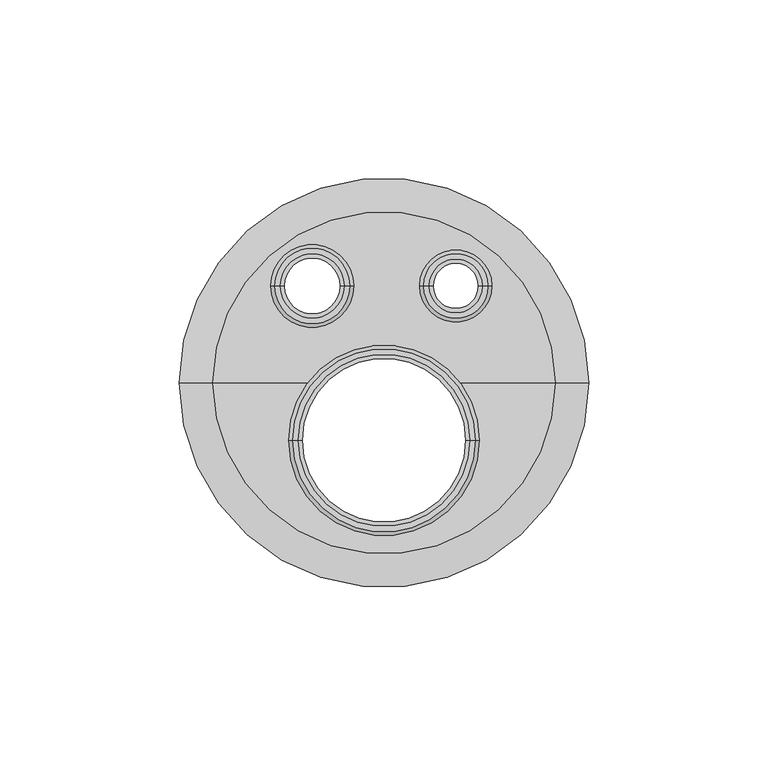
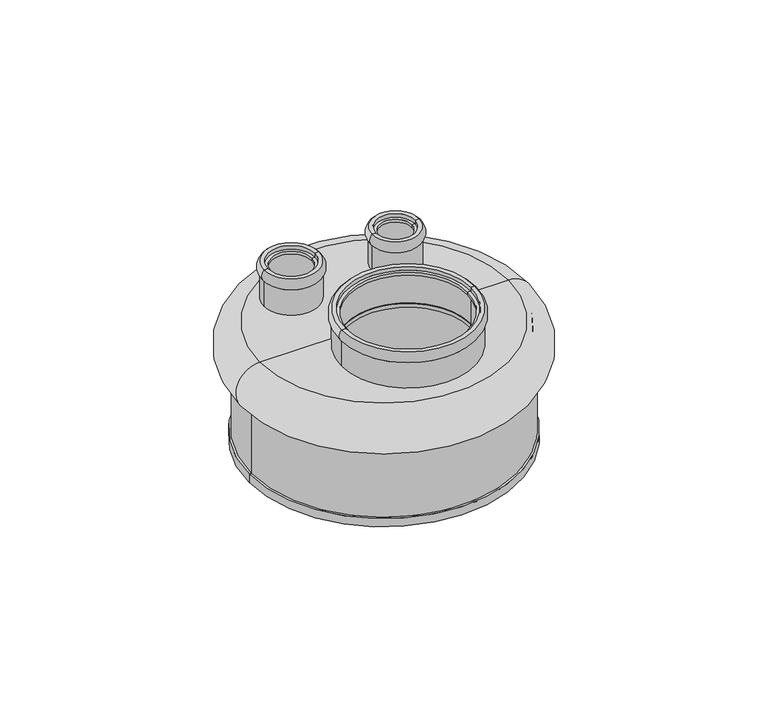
"""IFC4 building model written with IfcOpenShell, lengths in millimetres: valve geometry, Astra - Vedante Flexível Triplo - CFT : Astra - Vedante Flexível Triplo - CFT."""

import ifcopenshell
import ifcopenshell.guid

model = None  # the IFC model being written
_history = None  # IfcOwnerHistory: only IFC2X3 demands one
_inside = {}  # id of a spatial element -> (the spatial element, [elements in it])
_under = {}  # id of a project, library or spatial element -> (it, [spatial elements below it])
_declared = {}  # id of a project -> (the project, [libraries it declares])
_typed = {}  # id of a type object -> (the type object, [elements of that type])
_made_of = {}  # id of a material, layer set ... -> (it, [elements and type objects made of it])


def new_model(schema):
    """Start an empty IFC model of exactly this schema.

    Asked for "IFC4X3", IfcOpenShell would pick the latest addendum, in which some entities
    have other attributes; the version numbers below select the first issue.
    IFC2X3 requires an IfcOwnerHistory on every rooted entity: one is made here for all.
    """
    global model, _history
    if schema == "IFC4X3":
        model = ifcopenshell.file(schema_version=(4, 3, 0, 0))
    else:
        model = ifcopenshell.file(schema=schema)
    _inside.clear()
    _under.clear()
    _declared.clear()
    _typed.clear()
    _made_of.clear()
    _history = None
    if model.schema == "IFC2X3":
        org = make("IfcOrganization", Name="unknown")
        user = make(
            "IfcPersonAndOrganization",
            ThePerson=make("IfcPerson", FamilyName="unknown"),
            TheOrganization=org,
        )
        app = make(
            "IfcApplication",
            ApplicationDeveloper=org,
            Version="unknown",
            ApplicationFullName="unknown",
            ApplicationIdentifier="unknown",
        )
        _history = make(
            "IfcOwnerHistory",
            OwningUser=user,
            OwningApplication=app,
            ChangeAction="ADDED",
            CreationDate=0,
        )
    return model


def make(cls, **values):
    """One entity of the class cls with the attributes given. An attribute that is None is left unset."""
    return model.create_entity(
        cls, **{name: value for name, value in values.items() if value is not None}
    )


def rooted(cls, **values):
    """An entity with a GlobalId (a new one), such as an element, a storey or a relation."""
    return make(cls, GlobalId=ifcopenshell.guid.new(), OwnerHistory=_history, **values)


def si_unit(unit_type, name, prefix=None):
    """IfcSIUnit, for example si_unit("LENGTHUNIT", "METRE", prefix="MILLI")."""
    return make("IfcSIUnit", UnitType=unit_type, Prefix=prefix, Name=name)


def assignment(units):
    """IfcUnitAssignment: the units of a project."""
    return None if units is None else make("IfcUnitAssignment", Units=units)


def point(xyz):
    """IfcCartesianPoint."""
    return None if xyz is None else make("IfcCartesianPoint", Coordinates=xyz)


def direction(xyz):
    """IfcDirection."""
    return None if xyz is None else make("IfcDirection", DirectionRatios=xyz)


def frame(location, z_axis=None, x_axis=None):
    """IfcAxis2Placement3D, a coordinate frame: its origin and axes. An axis left out is left unset."""
    return make(
        "IfcAxis2Placement3D",
        Location=point(location),
        Axis=direction(z_axis),
        RefDirection=direction(x_axis),
    )


def origin():
    """The frame at (0, 0, 0) with its axes left unset."""
    return frame((0.0, 0.0, 0.0))


def origin_with_axes():
    """The frame at (0, 0, 0) with the z axis (0, 0, 1) and the x axis (1, 0, 0) written out."""
    return frame((0.0, 0.0, 0.0), z_axis=(0.0, 0.0, 1.0), x_axis=(1.0, 0.0, 0.0))


def place(relative_to, where):
    """IfcLocalPlacement: puts the frame where relative to a parent placement (None: the world)."""
    return make(
        "IfcLocalPlacement", PlacementRelTo=relative_to, RelativePlacement=where
    )


def context(
    kind, dimensions, precision=None, world=None, true_north=None, identifier=None
):
    """IfcGeometricRepresentationContext, for example the 3D "Model" context."""
    return make(
        "IfcGeometricRepresentationContext",
        ContextIdentifier=identifier,
        ContextType=kind,
        CoordinateSpaceDimension=dimensions,
        Precision=precision,
        WorldCoordinateSystem=world,
        TrueNorth=true_north,
    )


def project(units=None, contexts=None):
    """IfcProject with its units and contexts."""
    return rooted(
        "IfcProject",
        Name="project",
        RepresentationContexts=contexts,
        UnitsInContext=assignment(units),
    )


def spatial(cls, under=None, at=None, **own):
    """A site, building, storey or space (cls), placed at a placement, below another one or the project."""
    s = rooted(cls, ObjectPlacement=at, **own)
    if under is not None:
        _under.setdefault(under.id(), (under, []))[1].append(s)
    return s


def polyline(points):
    """IfcPolyline through the points."""
    return make("IfcPolyline", Points=[point(p) for p in points])


def circle_curve(where, radius):
    """IfcCircle in the frame where."""
    return make("IfcCircle", Position=where, Radius=radius)


def ellipse_curve(where, semi_axis1, semi_axis2):
    """IfcEllipse in the frame where."""
    return make(
        "IfcEllipse", Position=where, SemiAxis1=semi_axis1, SemiAxis2=semi_axis2
    )


def trimmed(basis, trim1, trim2, sense, master):
    """IfcTrimmedCurve: the piece of a basis curve between two trims."""
    return make(
        "IfcTrimmedCurve",
        BasisCurve=basis,
        Trim1=trim1,
        Trim2=trim2,
        SenseAgreement=sense,
        MasterRepresentation=master,
    )


def shape(context_of_items, identifier, shape_type, items):
    """IfcShapeRepresentation: the items that make up one representation, for example the "Body"."""
    return make(
        "IfcShapeRepresentation",
        ContextOfItems=context_of_items,
        RepresentationIdentifier=identifier,
        RepresentationType=shape_type,
        Items=items,
    )


def source(mapping_origin, context_of_items, identifier, shape_type, items):
    """IfcRepresentationMap: a shape defined once, which mapped items show again and again."""
    return make(
        "IfcRepresentationMap",
        MappingOrigin=mapping_origin,
        MappedRepresentation=shape(context_of_items, identifier, shape_type, items),
    )


def transform(
    local_origin,
    x_axis=None,
    y_axis=None,
    z_axis=None,
    scale=None,
    scale2=None,
    scale3=None,
    uniform=True,
):
    """IfcCartesianTransformationOperator3D, or its non-uniform kind. x_axis, y_axis, z_axis: its Axis1, 2, 3."""
    if uniform:
        return make(
            "IfcCartesianTransformationOperator3D",
            Axis1=direction(x_axis),
            Axis2=direction(y_axis),
            LocalOrigin=point(local_origin),
            Scale=scale,
            Axis3=direction(z_axis),
        )
    return make(
        "IfcCartesianTransformationOperator3DnonUniform",
        Axis1=direction(x_axis),
        Axis2=direction(y_axis),
        LocalOrigin=point(local_origin),
        Scale=scale,
        Axis3=direction(z_axis),
        Scale2=scale2,
        Scale3=scale3,
    )


def mapped(mapping_source, mapping_target):
    """IfcMappedItem: shows the shape of a source again, moved by a transform."""
    return make(
        "IfcMappedItem", MappingSource=mapping_source, MappingTarget=mapping_target
    )


def made_of(thing, what):
    """Note that an element or type object is made of a material, layer set ...; save() writes the relation."""
    if what is not None:
        _made_of.setdefault(what.id(), (what, []))[1].append(thing)
    return thing


def element(
    cls,
    number,
    at=None,
    inside=None,
    cuts=None,
    type_object=None,
    material=None,
    context=None,
    identifier="Body",
    shape_type=None,
    held_by="IfcProductDefinitionShape",
    body=None,
    shapes=None,
    **own,
):
    """One element of the class cls, such as IfcWall. Its Tag is "e" and its number.

    at: its placement. inside: the storey or other place that contains it. cuts: it is an
    opening in that element (IfcRelVoidsElement). A single representation is given by context,
    identifier, shape_type and body (its items); several are given by shapes. held_by: the class
    of the entity that holds the representations. save() writes the other relations.
    """
    e = rooted(cls, Tag="e%d" % number, ObjectPlacement=at, **own)
    if body is not None:
        shapes = [shape(context, identifier, shape_type, body)]
    if shapes is not None:
        e.Representation = make(held_by, Representations=shapes)
    if inside is not None:
        _inside.setdefault(inside.id(), (inside, []))[1].append(e)
    if cuts is not None:
        rooted(
            "IfcRelVoidsElement", RelatingBuildingElement=cuts, RelatedOpeningElement=e
        )
    if type_object is not None:
        _typed.setdefault(type_object.id(), (type_object, []))[1].append(e)
    return made_of(e, material)


def aggregate(whole, parts):
    """IfcRelAggregates: a whole, such as a stair, and the parts it consists of."""
    return rooted("IfcRelAggregates", RelatingObject=whole, RelatedObjects=parts)


def save(model, path):
    """Write the relations noted so far, then the file.

    IfcRelAggregates (storeys below a building ...), IfcRelContainedInSpatialStructure (elements
    in a storey), IfcRelDefinesByType, IfcRelAssociatesMaterial and IfcRelDeclares: one each for
    every whole, place, type object, material and project.
    """
    for whole, parts in _under.values():
        aggregate(whole, parts)
    for where, things in _inside.values():
        rooted(
            "IfcRelContainedInSpatialStructure",
            RelatedElements=things,
            RelatingStructure=where,
        )
    for kind, things in _typed.values():
        rooted("IfcRelDefinesByType", RelatedObjects=things, RelatingType=kind)
    for what, things in _made_of.values():
        rooted("IfcRelAssociatesMaterial", RelatedObjects=things, RelatingMaterial=what)
    for by, libraries in _declared.values():
        rooted("IfcRelDeclares", RelatingContext=by, RelatedDefinitions=libraries)
    model.write(path)


def plane_surface(at):
    """IfcPlane: the flat surface through the origin of the frame at, square to its z axis."""
    return make("IfcPlane", Position=at)


def cylinder_surface(at, radius):
    """IfcCylindricalSurface: all points at the distance radius from the z axis of the frame at."""
    return make("IfcCylindricalSurface", Position=at, Radius=radius)


def revolved_surface(curve, axis_point, axis_direction):
    """IfcSurfaceOfRevolution: the curve turned about the line through axis_point along axis_direction."""
    return make(
        "IfcSurfaceOfRevolution",
        SweptCurve=make("IfcArbitraryOpenProfileDef", ProfileType="CURVE", Curve=curve),
        AxisPosition=make("IfcAxis1Placement", Location=point(axis_point), Axis=direction(axis_direction)),
    )


def advanced_brep(points, edges, surfaces, faces):
    """IfcAdvancedBrep: a solid bounded by faces that lie on surfaces and meet in shared edges.

    An edge is (start, end): straight between two places in points (the first is 0);
    or (start, end, curve); or (start, end, curve, False) where it runs against its curve.
    A face is (place in surfaces, loops), or (place, loops, False) where it looks against
    its surface's normal. A loop lists edges by number (the first is 1), with a minus sign
    where the edge is run from its end to its start. The first loop is the outer one.
    """
    corners = [point(p) for p in points]
    vertices = [make("IfcVertexPoint", VertexGeometry=c) for c in corners]
    made = []
    for start, end, *more in edges:
        made.append(
            make(
                "IfcEdgeCurve",
                EdgeStart=vertices[start],
                EdgeEnd=vertices[end],
                EdgeGeometry=more[0] if more else make("IfcPolyline", Points=[corners[start], corners[end]]),
                SameSense=more[1] if len(more) > 1 else True,
            )
        )
    hull = []
    for where, loops, *sense in faces:
        bounds = []
        for j, loop in enumerate(loops):
            ring = [make("IfcOrientedEdge", EdgeElement=made[abs(k) - 1], Orientation=k > 0) for k in loop]
            bounds.append(
                make(
                    "IfcFaceOuterBound" if j == 0 else "IfcFaceBound",
                    Bound=make("IfcEdgeLoop", EdgeList=ring),
                    Orientation=True,
                )
            )
        hull.append(make("IfcAdvancedFace", Bounds=bounds, FaceSurface=surfaces[where], SameSense=sense[0] if sense else True))
    return make("IfcAdvancedBrep", Outer=make("IfcClosedShell", CfsFaces=hull))


def valve_129e3b03(model_context):
    return source(origin(), model_context, "Body", "AdvancedBrep", [
        advanced_brep(
        [(47.648, 0.0, 0.0), (-47.648, 0.0, 0.0), (-17.8885438, 0.0, 0.0), (17.8885438, 0.0, 0.0), (27.5, 27.0, 0.0), (12.5, 27.0, 0.0), (-11.0, 27.0, 0.0), (-29.0, 27.0, 0.0), (24.0, -16.0, 0.0), (-24.0, -16.0, 0.0), (-49.5006317, 0.0, -47.402), (49.5, 0.0, -47.402), (49.5, 0.0, -1.5), (-49.5006317, 0.0, -1.5), (-51.8006317, 0.0, -47.402), (51.8, 0.0, -47.402), (-51.8006317, 0.0, -44.102), (51.8, 0.0, -44.102), (-51.0006317, 0.0, -44.102), (51.0, 0.0, -44.102), (-51.0006317, 0.0, -17.47), (51.0, 0.0, -17.47), (17.8885438, 0.0, -1.5), (-17.8885438, 0.0, -1.5), (-29.0, 27.0, -1.5), (-11.0, 27.0, -1.5), (12.5, 27.0, -1.5), (27.5, 27.0, -1.5), (-24.0, -16.0, -1.5), (24.0, -16.0, -1.5), (-52.3023313, 0.0, -17.47), (52.3023313, 0.0, -17.47)],
        [
            (0, 1, circle_curve(origin_with_axes(), 47.648)),
            (1, 2),
            (2, 3, circle_curve(frame((0.0, -16.0, 0.0), z_axis=(0.0, 0.0, -1.0), x_axis=(1.0, 0.0, 0.0)), 24.0)),
            (3, 0),
            (4, 5, circle_curve(frame((20.0, 27.0, 0.0), z_axis=(0.0, 0.0, -1.0), x_axis=(1.0, 0.0, 0.0)), 7.5)),
            (5, 4, circle_curve(frame((20.0, 27.0, 0.0), z_axis=(0.0, 0.0, -1.0), x_axis=(1.0, 0.0, 0.0)), 7.5)),
            (6, 7, circle_curve(frame((-20.0, 27.0, 0.0), z_axis=(0.0, 0.0, -1.0), x_axis=(1.0, 0.0, 0.0)), 9.0)),
            (7, 6, circle_curve(frame((-20.0, 27.0, 0.0), z_axis=(0.0, 0.0, -1.0), x_axis=(1.0, 0.0, 0.0)), 9.0)),
            (1, 0, circle_curve(origin_with_axes(), 47.648)),
            (3, 8, circle_curve(frame((0.0, -16.0, 0.0), z_axis=(0.0, 0.0, -1.0), x_axis=(1.0, 0.0, 0.0)), 24.0)),
            (8, 9, circle_curve(frame((0.0, -16.0, 0.0), z_axis=(0.0, 0.0, -1.0), x_axis=(1.0, 0.0, 0.0)), 24.0)),
            (9, 2, circle_curve(frame((0.0, -16.0, 0.0), z_axis=(0.0, 0.0, -1.0), x_axis=(1.0, 0.0, 0.0)), 24.0)),
            (10, 11, circle_curve(frame((-0.0003158, 0.0, -47.402), z_axis=(0.0, 0.0, -1.0), x_axis=(1.0, 0.0, 0.0)), 49.5003158)),
            (11, 12),
            (12, 13, circle_curve(frame((-0.0003158, 0.0, -1.5), z_axis=(0.0, 0.0, 1.0), x_axis=(1.0, 0.0, 0.0)), 49.5003158)),
            (13, 10),
            (11, 10, circle_curve(frame((-0.0003158, 0.0, -47.402), z_axis=(0.0, 0.0, -1.0), x_axis=(1.0, 0.0, 0.0)), 49.5003158)),
            (13, 12, circle_curve(frame((-0.0003158, 0.0, -1.5), z_axis=(0.0, 0.0, 1.0), x_axis=(1.0, 0.0, 0.0)), 49.5003158)),
            (10, 14),
            (14, 15, circle_curve(frame((-0.0003158, 0.0, -47.402), z_axis=(0.0, 0.0, -1.0), x_axis=(1.0, 0.0, 0.0)), 51.8003158)),
            (15, 11),
            (15, 14, circle_curve(frame((-0.0003158, 0.0, -47.402), z_axis=(0.0, 0.0, -1.0), x_axis=(1.0, 0.0, 0.0)), 51.8003158)),
            (14, 16),
            (16, 17, circle_curve(frame((-0.0003158, 0.0, -44.102), z_axis=(0.0, 0.0, -1.0), x_axis=(1.0, 0.0, 0.0)), 51.8003158)),
            (17, 15),
            (17, 16, circle_curve(frame((-0.0003158, 0.0, -44.102), z_axis=(0.0, 0.0, -1.0), x_axis=(1.0, 0.0, 0.0)), 51.8003158)),
            (16, 18),
            (18, 19, circle_curve(frame((-0.0003158, 0.0, -44.102), z_axis=(0.0, 0.0, -1.0), x_axis=(1.0, 0.0, 0.0)), 51.0003158)),
            (19, 17),
            (19, 18, circle_curve(frame((-0.0003158, 0.0, -44.102), z_axis=(0.0, 0.0, -1.0), x_axis=(1.0, 0.0, 0.0)), 51.0003158)),
            (18, 20),
            (20, 21, circle_curve(frame((-0.0003158, 0.0, -17.47), z_axis=(0.0, 0.0, -1.0), x_axis=(1.0, 0.0, 0.0)), 51.0003158)),
            (21, 19),
            (21, 20, circle_curve(frame((-0.0003158, 0.0, -17.47), z_axis=(0.0, 0.0, -1.0), x_axis=(1.0, 0.0, 0.0)), 51.0003158)),
            (12, 22),
            (22, 23, circle_curve(frame((0.0, -16.0, -1.5), z_axis=(0.0, 0.0, 1.0), x_axis=(1.0, 0.0, 0.0)), 24.0)),
            (23, 13),
            (24, 25, circle_curve(frame((-20.0, 27.0, -1.5), z_axis=(0.0, 0.0, 1.0), x_axis=(1.0, 0.0, 0.0)), 9.0)),
            (25, 24, circle_curve(frame((-20.0, 27.0, -1.5), z_axis=(0.0, 0.0, 1.0), x_axis=(1.0, 0.0, 0.0)), 9.0)),
            (26, 27, circle_curve(frame((20.0, 27.0, -1.5), z_axis=(0.0, 0.0, 1.0), x_axis=(1.0, 0.0, 0.0)), 7.5)),
            (27, 26, circle_curve(frame((20.0, 27.0, -1.5), z_axis=(0.0, 0.0, 1.0), x_axis=(1.0, 0.0, 0.0)), 7.5)),
            (23, 28, circle_curve(frame((0.0, -16.0, -1.5), z_axis=(0.0, 0.0, 1.0), x_axis=(1.0, 0.0, 0.0)), 24.0)),
            (28, 29, circle_curve(frame((0.0, -16.0, -1.5), z_axis=(0.0, 0.0, 1.0), x_axis=(1.0, 0.0, 0.0)), 24.0)),
            (29, 22, circle_curve(frame((0.0, -16.0, -1.5), z_axis=(0.0, 0.0, 1.0), x_axis=(1.0, 0.0, 0.0)), 24.0)),
            (20, 30),
            (30, 31, circle_curve(frame((0.0, 0.0, -17.47), z_axis=(0.0, 0.0, -1.0), x_axis=(1.0, 0.0, 0.0)), 52.3023313)),
            (31, 21),
            (31, 30, circle_curve(frame((0.0, 0.0, -17.47), z_axis=(0.0, 0.0, -1.0), x_axis=(1.0, 0.0, 0.0)), 52.3023313)),
            (30, 1, circle_curve(frame((-47.648, 0.0, -9.355), z_axis=(0.0, 1.0, 0.0), x_axis=(-1.0, 0.0, 0.0)), 9.355)),
            (0, 31, circle_curve(frame((47.648, 0.0, -9.355), z_axis=(0.0, 1.0, 0.0), x_axis=(1.0, 0.0, 0.0)), 9.355)),
            (24, 7),
            (6, 25),
            (26, 5),
            (4, 27),
            (28, 9),
            (8, 29),
        ],
        [
            plane_surface(frame((-0.0003158, 0.0, 0.0), z_axis=(0.0, 0.0, 1.0), x_axis=(1.0, 0.0, 0.0))),
            revolved_surface(polyline([(49.5, 0.0, -1.5), (49.5, 0.0, -47.402)]), (-0.0003158, 0.0, 0.0), (0.0, 0.0, 1.0)),
            plane_surface(frame((-0.0003158, 0.0, -47.402), z_axis=(0.0, 0.0, -1.0), x_axis=(1.0, 0.0, 0.0))),
            cylinder_surface(frame((-0.0003158, 0.0, 0.0), z_axis=(0.0, 0.0, 1.0), x_axis=(1.0, 0.0, 0.0)), 51.8003158),
            plane_surface(frame((-0.0003158, 0.0, -44.102), z_axis=(0.0, 0.0, 1.0), x_axis=(1.0, 0.0, 0.0))),
            cylinder_surface(frame((-0.0003158, 0.0, 0.0), z_axis=(0.0, 0.0, 1.0), x_axis=(1.0, 0.0, 0.0)), 51.0003158),
            plane_surface(frame((-0.0003158, 0.0, -1.5), z_axis=(0.0, 0.0, -1.0), x_axis=(1.0, 0.0, 0.0))),
            plane_surface(frame((-0.0003158, 0.0, -17.47), z_axis=(0.0, 0.0, -1.0), x_axis=(1.0, 0.0, 0.0))),
            revolved_surface(trimmed(ellipse_curve(frame((47.648, 0.0, -9.355), z_axis=(0.0, -1.0, 0.0), x_axis=(1.0, 0.0, 0.0)), 9.355, 9.355), [point((52.3023313, 0.0, -17.47))], [point((47.648, 0.0, 0.0))], True, "CARTESIAN"), (0.0, 0.0, 0.0), (0.0, 0.0, 1.0)),
            revolved_surface(polyline([(-11.0, 27.0, 0.0), (-11.0, 27.0, -1.5)]), (-20.0, 27.0, -1.7), (0.0, 0.0, 1.0)),
            revolved_surface(polyline([(27.5, 27.0, 0.0), (27.5, 27.0, -1.5)]), (20.0, 27.0, 0.0), (0.0, 0.0, 1.0)),
            revolved_surface(polyline([(24.0, -16.0, 0.0), (24.0, -16.0, -1.5)]), (0.0, -16.0, 0.0), (0.0, 0.0, 1.0)),
        ],
        [
            (0, [[1, 2, 3, 4], [5, 6], [7, 8]]),
            (0, [[9, -4, 10, 11, 12, -2]]),
            (1, [[13, 14, 15, 16]]),
            (1, [[-14, 17, -16, 18]]),
            (2, [[-13, 19, 20, 21]]),
            (2, [[-17, -21, 22, -19]]),
            (3, [[-20, 23, 24, 25]]),
            (3, [[-22, -25, 26, -23]]),
            (4, [[-24, 27, 28, 29]]),
            (4, [[-26, -29, 30, -27]]),
            (5, [[-28, 31, 32, 33]]),
            (5, [[-30, -33, 34, -31]]),
            (6, [[-15, 35, 36, 37], [38, 39], [40, 41]]),
            (6, [[-18, -37, 42, 43, 44, -35]]),
            (7, [[-32, 45, 46, 47]]),
            (7, [[-34, -47, 48, -45]]),
            (8, [[49, -1, 50, -46]]),
            (8, [[-49, -48, -50, -9]]),
            (9, [[51, -7, 52, -38]]),
            (9, [[-51, -39, -52, -8]]),
            (10, [[53, -5, 54, -40]]),
            (10, [[-53, -41, -54, -6]]),
            (11, [[55, -11, 56, -43]]),
            (11, [[-55, -42, -36, -44, -56, -10, -3, -12]]),
        ],
    ),
        advanced_brep(
        [(-25.565, -16.0, 10.5771317), (25.565, -16.0, 10.5771317), (25.565, -16.0, 0.0), (-25.565, -16.0, 0.0), (-25.565, -16.0, 15.0), (25.565, -16.0, 15.0), (-24.0, -16.0, 15.0), (24.0, -16.0, 15.0), (-24.0, -16.0, 13.5), (24.0, -16.0, 13.5), (-22.8, -16.0, 13.5), (22.8, -16.0, 13.5), (-22.8, -16.0, 12.35), (22.8, -16.0, 12.35), (-24.0, -16.0, 12.35), (24.0, -16.0, 12.35), (-24.0, -16.0, 0.0), (24.0, -16.0, 0.0)],
        [
            (0, 1, circle_curve(frame((0.0, -16.0, 10.5771317), z_axis=(0.0, 0.0, -1.0), x_axis=(1.0, 0.0, 0.0)), 25.565)),
            (1, 2),
            (2, 3, circle_curve(frame((0.0, -16.0, 0.0), z_axis=(0.0, 0.0, 1.0), x_axis=(1.0, 0.0, 0.0)), 25.565)),
            (3, 0),
            (1, 0, circle_curve(frame((0.0, -16.0, 10.5771317), z_axis=(0.0, 0.0, -1.0), x_axis=(1.0, 0.0, 0.0)), 25.565)),
            (3, 2, circle_curve(frame((0.0, -16.0, 0.0), z_axis=(0.0, 0.0, 1.0), x_axis=(1.0, 0.0, 0.0)), 25.565)),
            (4, 5, circle_curve(frame((0.0, -16.0, 15.0), z_axis=(0.0, 0.0, -1.0), x_axis=(1.0, 0.0, 0.0)), 25.565)),
            (5, 1, circle_curve(frame((23.620326, -16.0, 12.7885658), z_axis=(0.0, 1.0, 0.0), x_axis=(1.0, 0.0, 0.0)), 2.9448596)),
            (0, 4, circle_curve(frame((-23.620326, -16.0, 12.7885658), z_axis=(0.0, 1.0, 0.0), x_axis=(-1.0, 0.0, 0.0)), 2.9448596)),
            (5, 4, circle_curve(frame((0.0, -16.0, 15.0), z_axis=(0.0, 0.0, -1.0), x_axis=(1.0, 0.0, 0.0)), 25.565)),
            (6, 7, circle_curve(frame((0.0, -16.0, 15.0), z_axis=(0.0, 0.0, -1.0), x_axis=(1.0, 0.0, 0.0)), 24.0)),
            (7, 5),
            (4, 6),
            (7, 6, circle_curve(frame((0.0, -16.0, 15.0), z_axis=(0.0, 0.0, -1.0), x_axis=(1.0, 0.0, 0.0)), 24.0)),
            (8, 9, circle_curve(frame((0.0, -16.0, 13.5), z_axis=(0.0, 0.0, -1.0), x_axis=(1.0, 0.0, 0.0)), 24.0)),
            (9, 7),
            (6, 8),
            (9, 8, circle_curve(frame((0.0, -16.0, 13.5), z_axis=(0.0, 0.0, -1.0), x_axis=(1.0, 0.0, 0.0)), 24.0)),
            (10, 11, circle_curve(frame((0.0, -16.0, 13.5), z_axis=(0.0, 0.0, -1.0), x_axis=(1.0, 0.0, 0.0)), 22.8)),
            (11, 9),
            (8, 10),
            (11, 10, circle_curve(frame((0.0, -16.0, 13.5), z_axis=(0.0, 0.0, -1.0), x_axis=(1.0, 0.0, 0.0)), 22.8)),
            (12, 13, circle_curve(frame((0.0, -16.0, 12.35), z_axis=(0.0, 0.0, -1.0), x_axis=(1.0, 0.0, 0.0)), 22.8)),
            (13, 11),
            (10, 12),
            (13, 12, circle_curve(frame((0.0, -16.0, 12.35), z_axis=(0.0, 0.0, -1.0), x_axis=(1.0, 0.0, 0.0)), 22.8)),
            (14, 15, circle_curve(frame((0.0, -16.0, 12.35), z_axis=(0.0, 0.0, -1.0), x_axis=(1.0, 0.0, 0.0)), 24.0)),
            (15, 13),
            (12, 14),
            (15, 14, circle_curve(frame((0.0, -16.0, 12.35), z_axis=(0.0, 0.0, -1.0), x_axis=(1.0, 0.0, 0.0)), 24.0)),
            (16, 17, circle_curve(frame((0.0, -16.0, 0.0), z_axis=(0.0, 0.0, -1.0), x_axis=(1.0, 0.0, 0.0)), 24.0)),
            (17, 15),
            (14, 16),
            (17, 16, circle_curve(frame((0.0, -16.0, 0.0), z_axis=(0.0, 0.0, -1.0), x_axis=(1.0, 0.0, 0.0)), 24.0)),
            (2, 17),
            (16, 3),
        ],
        [
            cylinder_surface(frame((0.0, -16.0, 15.0), z_axis=(0.0, 0.0, 1.0), x_axis=(1.0, 0.0, 0.0)), 25.565),
            revolved_surface(trimmed(ellipse_curve(frame((23.620326, -16.0, 12.7885658), z_axis=(0.0, -1.0, 0.0), x_axis=(1.0, 0.0, 0.0)), 2.9448596, 2.9448596), [point((25.565, -16.0, 10.5771317))], [point((25.565, -16.0, 15.0))], True, "CARTESIAN"), (0.0, -16.0, 15.0), (0.0, 0.0, 1.0)),
            plane_surface(frame((0.0, -16.0, 15.0), z_axis=(0.0, 0.0, 1.0), x_axis=(1.0, 0.0, 0.0))),
            revolved_surface(polyline([(24.0, -16.0, 15.0), (24.0, -16.0, 13.5)]), (0.0, -16.0, 15.0), (0.0, 0.0, 1.0)),
            plane_surface(frame((0.0, -16.0, 13.5), z_axis=(0.0, 0.0, 1.0), x_axis=(1.0, 0.0, 0.0))),
            revolved_surface(polyline([(22.8, -16.0, 13.5), (22.8, -16.0, 12.35)]), (0.0, -16.0, 15.0), (0.0, 0.0, 1.0)),
            plane_surface(frame((0.0, -16.0, 12.35), z_axis=(0.0, 0.0, -1.0), x_axis=(1.0, 0.0, 0.0))),
            revolved_surface(polyline([(24.0, -16.0, 12.35), (24.0, -16.0, 0.0)]), (0.0, -16.0, 15.0), (0.0, 0.0, 1.0)),
            plane_surface(frame((0.0, -16.0, 0.0), z_axis=(0.0, 0.0, -1.0), x_axis=(1.0, 0.0, 0.0))),
        ],
        [
            (0, [[1, 2, 3, 4]]),
            (0, [[5, -4, 6, -2]]),
            (1, [[7, 8, -1, 9]]),
            (1, [[10, -9, -5, -8]]),
            (2, [[11, 12, -7, 13]]),
            (2, [[14, -13, -10, -12]]),
            (3, [[15, 16, -11, 17]]),
            (3, [[18, -17, -14, -16]]),
            (4, [[19, 20, -15, 21]]),
            (4, [[22, -21, -18, -20]]),
            (5, [[23, 24, -19, 25]]),
            (5, [[26, -25, -22, -24]]),
            (6, [[27, 28, -23, 29]]),
            (6, [[30, -29, -26, -28]]),
            (7, [[31, 32, -27, 33]]),
            (7, [[34, -33, -30, -32]]),
            (8, [[-3, 35, -31, 36]]),
            (8, [[-6, -36, -34, -35]]),
        ],
    ),
        advanced_brep(
        [(10.935, 27.0, 10.5771317), (29.065, 27.0, 10.5771317), (29.065, 27.0, 0.0), (10.935, 27.0, 0.0), (10.935, 27.0, 15.0), (29.065, 27.0, 15.0), (12.5, 27.0, 15.0), (27.5, 27.0, 15.0), (12.5, 27.0, 13.5), (27.5, 27.0, 13.5), (13.7, 27.0, 13.5), (26.3, 27.0, 13.5), (13.7, 27.0, 12.35), (26.3, 27.0, 12.35), (12.5, 27.0, 12.35), (27.5, 27.0, 12.35), (12.5, 27.0, 0.0), (27.5, 27.0, 0.0)],
        [
            (0, 1, circle_curve(frame((20.0, 27.0, 10.5771317), z_axis=(0.0, 0.0, -1.0), x_axis=(1.0, 0.0, 0.0)), 9.065)),
            (1, 2),
            (2, 3, circle_curve(frame((20.0, 27.0, 0.0), z_axis=(0.0, 0.0, 1.0), x_axis=(1.0, 0.0, 0.0)), 9.065)),
            (3, 0),
            (1, 0, circle_curve(frame((20.0, 27.0, 10.5771317), z_axis=(0.0, 0.0, -1.0), x_axis=(1.0, 0.0, 0.0)), 9.065)),
            (3, 2, circle_curve(frame((20.0, 27.0, 0.0), z_axis=(0.0, 0.0, 1.0), x_axis=(1.0, 0.0, 0.0)), 9.065)),
            (4, 5, circle_curve(frame((20.0, 27.0, 15.0), z_axis=(0.0, 0.0, -1.0), x_axis=(1.0, 0.0, 0.0)), 9.065)),
            (5, 1, circle_curve(frame((27.120326, 27.0, 12.7885658), z_axis=(0.0, 1.0, 0.0), x_axis=(1.0, 0.0, 0.0)), 2.9448596)),
            (0, 4, circle_curve(frame((12.879674, 27.0, 12.7885658), z_axis=(0.0, 1.0, 0.0), x_axis=(-1.0, 0.0, 0.0)), 2.9448596)),
            (5, 4, circle_curve(frame((20.0, 27.0, 15.0), z_axis=(0.0, 0.0, -1.0), x_axis=(1.0, 0.0, 0.0)), 9.065)),
            (6, 7, circle_curve(frame((20.0, 27.0, 15.0), z_axis=(0.0, 0.0, -1.0), x_axis=(1.0, 0.0, 0.0)), 7.5)),
            (7, 5),
            (4, 6),
            (7, 6, circle_curve(frame((20.0, 27.0, 15.0), z_axis=(0.0, 0.0, -1.0), x_axis=(1.0, 0.0, 0.0)), 7.5)),
            (8, 9, circle_curve(frame((20.0, 27.0, 13.5), z_axis=(0.0, 0.0, -1.0), x_axis=(1.0, 0.0, 0.0)), 7.5)),
            (9, 7),
            (6, 8),
            (9, 8, circle_curve(frame((20.0, 27.0, 13.5), z_axis=(0.0, 0.0, -1.0), x_axis=(1.0, 0.0, 0.0)), 7.5)),
            (10, 11, circle_curve(frame((20.0, 27.0, 13.5), z_axis=(0.0, 0.0, -1.0), x_axis=(1.0, 0.0, 0.0)), 6.3)),
            (11, 9),
            (8, 10),
            (11, 10, circle_curve(frame((20.0, 27.0, 13.5), z_axis=(0.0, 0.0, -1.0), x_axis=(1.0, 0.0, 0.0)), 6.3)),
            (12, 13, circle_curve(frame((20.0, 27.0, 12.35), z_axis=(0.0, 0.0, -1.0), x_axis=(1.0, 0.0, 0.0)), 6.3)),
            (13, 11),
            (10, 12),
            (13, 12, circle_curve(frame((20.0, 27.0, 12.35), z_axis=(0.0, 0.0, -1.0), x_axis=(1.0, 0.0, 0.0)), 6.3)),
            (14, 15, circle_curve(frame((20.0, 27.0, 12.35), z_axis=(0.0, 0.0, -1.0), x_axis=(1.0, 0.0, 0.0)), 7.5)),
            (15, 13),
            (12, 14),
            (15, 14, circle_curve(frame((20.0, 27.0, 12.35), z_axis=(0.0, 0.0, -1.0), x_axis=(1.0, 0.0, 0.0)), 7.5)),
            (16, 17, circle_curve(frame((20.0, 27.0, 0.0), z_axis=(0.0, 0.0, -1.0), x_axis=(1.0, 0.0, 0.0)), 7.5)),
            (17, 15),
            (14, 16),
            (17, 16, circle_curve(frame((20.0, 27.0, 0.0), z_axis=(0.0, 0.0, -1.0), x_axis=(1.0, 0.0, 0.0)), 7.5)),
            (2, 17),
            (16, 3),
        ],
        [
            cylinder_surface(frame((20.0, 27.0, 15.0), z_axis=(0.0, 0.0, 1.0), x_axis=(1.0, 0.0, 0.0)), 9.065),
            revolved_surface(trimmed(ellipse_curve(frame((27.120326, 27.0, 12.7885658), z_axis=(0.0, -1.0, 0.0), x_axis=(1.0, 0.0, 0.0)), 2.9448596, 2.9448596), [point((29.065, 27.0, 10.5771317))], [point((29.065, 27.0, 15.0))], True, "CARTESIAN"), (20.0, 27.0, 15.0), (0.0, 0.0, 1.0)),
            plane_surface(frame((20.0, 27.0, 15.0), z_axis=(0.0, 0.0, 1.0), x_axis=(1.0, 0.0, 0.0))),
            revolved_surface(polyline([(27.5, 27.0, 15.0), (27.5, 27.0, 13.5)]), (20.0, 27.0, 15.0), (0.0, 0.0, 1.0)),
            plane_surface(frame((20.0, 27.0, 13.5), z_axis=(0.0, 0.0, 1.0), x_axis=(1.0, 0.0, 0.0))),
            revolved_surface(polyline([(26.3, 27.0, 13.5), (26.3, 27.0, 12.35)]), (20.0, 27.0, 15.0), (0.0, 0.0, 1.0)),
            plane_surface(frame((20.0, 27.0, 12.35), z_axis=(0.0, 0.0, -1.0), x_axis=(1.0, 0.0, 0.0))),
            revolved_surface(polyline([(27.5, 27.0, 12.35), (27.5, 27.0, 0.0)]), (20.0, 27.0, 15.0), (0.0, 0.0, 1.0)),
            plane_surface(frame((20.0, 27.0, 0.0), z_axis=(0.0, 0.0, -1.0), x_axis=(1.0, 0.0, 0.0))),
        ],
        [
            (0, [[1, 2, 3, 4]]),
            (0, [[5, -4, 6, -2]]),
            (1, [[7, 8, -1, 9]]),
            (1, [[10, -9, -5, -8]]),
            (2, [[11, 12, -7, 13]]),
            (2, [[14, -13, -10, -12]]),
            (3, [[15, 16, -11, 17]]),
            (3, [[18, -17, -14, -16]]),
            (4, [[19, 20, -15, 21]]),
            (4, [[22, -21, -18, -20]]),
            (5, [[23, 24, -19, 25]]),
            (5, [[26, -25, -22, -24]]),
            (6, [[27, 28, -23, 29]]),
            (6, [[30, -29, -26, -28]]),
            (7, [[31, 32, -27, 33]]),
            (7, [[34, -33, -30, -32]]),
            (8, [[-3, 35, -31, 36]]),
            (8, [[-6, -36, -34, -35]]),
        ],
    ),
        advanced_brep(
        [(-30.565, 27.0, 10.5771317), (-9.435, 27.0, 10.5771317), (-9.435, 27.0, 0.0), (-30.565, 27.0, 0.0), (-30.565, 27.0, 15.0), (-9.435, 27.0, 15.0), (-29.0, 27.0, 15.0), (-11.0, 27.0, 15.0), (-29.0, 27.0, 13.5), (-11.0, 27.0, 13.5), (-27.8, 27.0, 13.5), (-12.2, 27.0, 13.5), (-27.8, 27.0, 12.35), (-12.2, 27.0, 12.35), (-29.0, 27.0, 12.35), (-11.0, 27.0, 12.35), (-29.0, 27.0, 0.0), (-11.0, 27.0, 0.0)],
        [
            (0, 1, circle_curve(frame((-20.0, 27.0, 10.5771317), z_axis=(0.0, 0.0, -1.0), x_axis=(1.0, 0.0, 0.0)), 10.565)),
            (1, 2),
            (2, 3, circle_curve(frame((-20.0, 27.0, 0.0), z_axis=(0.0, 0.0, 1.0), x_axis=(1.0, 0.0, 0.0)), 10.565)),
            (3, 0),
            (1, 0, circle_curve(frame((-20.0, 27.0, 10.5771317), z_axis=(0.0, 0.0, -1.0), x_axis=(1.0, 0.0, 0.0)), 10.565)),
            (3, 2, circle_curve(frame((-20.0, 27.0, 0.0), z_axis=(0.0, 0.0, 1.0), x_axis=(1.0, 0.0, 0.0)), 10.565)),
            (4, 5, circle_curve(frame((-20.0, 27.0, 15.0), z_axis=(0.0, 0.0, -1.0), x_axis=(1.0, 0.0, 0.0)), 10.565)),
            (5, 1, circle_curve(frame((-11.379674, 27.0, 12.7885658), z_axis=(0.0, 1.0, 0.0), x_axis=(1.0, 0.0, 0.0)), 2.9448596)),
            (0, 4, circle_curve(frame((-28.620326, 27.0, 12.7885658), z_axis=(0.0, 1.0, 0.0), x_axis=(-1.0, 0.0, 0.0)), 2.9448596)),
            (5, 4, circle_curve(frame((-20.0, 27.0, 15.0), z_axis=(0.0, 0.0, -1.0), x_axis=(1.0, 0.0, 0.0)), 10.565)),
            (6, 7, circle_curve(frame((-20.0, 27.0, 15.0), z_axis=(0.0, 0.0, -1.0), x_axis=(1.0, 0.0, 0.0)), 9.0)),
            (7, 5),
            (4, 6),
            (7, 6, circle_curve(frame((-20.0, 27.0, 15.0), z_axis=(0.0, 0.0, -1.0), x_axis=(1.0, 0.0, 0.0)), 9.0)),
            (8, 9, circle_curve(frame((-20.0, 27.0, 13.5), z_axis=(0.0, 0.0, -1.0), x_axis=(1.0, 0.0, 0.0)), 9.0)),
            (9, 7),
            (6, 8),
            (9, 8, circle_curve(frame((-20.0, 27.0, 13.5), z_axis=(0.0, 0.0, -1.0), x_axis=(1.0, 0.0, 0.0)), 9.0)),
            (10, 11, circle_curve(frame((-20.0, 27.0, 13.5), z_axis=(0.0, 0.0, -1.0), x_axis=(1.0, 0.0, 0.0)), 7.8)),
            (11, 9),
            (8, 10),
            (11, 10, circle_curve(frame((-20.0, 27.0, 13.5), z_axis=(0.0, 0.0, -1.0), x_axis=(1.0, 0.0, 0.0)), 7.8)),
            (12, 13, circle_curve(frame((-20.0, 27.0, 12.35), z_axis=(0.0, 0.0, -1.0), x_axis=(1.0, 0.0, 0.0)), 7.8)),
            (13, 11),
            (10, 12),
            (13, 12, circle_curve(frame((-20.0, 27.0, 12.35), z_axis=(0.0, 0.0, -1.0), x_axis=(1.0, 0.0, 0.0)), 7.8)),
            (14, 15, circle_curve(frame((-20.0, 27.0, 12.35), z_axis=(0.0, 0.0, -1.0), x_axis=(1.0, 0.0, 0.0)), 9.0)),
            (15, 13),
            (12, 14),
            (15, 14, circle_curve(frame((-20.0, 27.0, 12.35), z_axis=(0.0, 0.0, -1.0), x_axis=(1.0, 0.0, 0.0)), 9.0)),
            (16, 17, circle_curve(frame((-20.0, 27.0, 0.0), z_axis=(0.0, 0.0, -1.0), x_axis=(1.0, 0.0, 0.0)), 9.0)),
            (17, 15),
            (14, 16),
            (17, 16, circle_curve(frame((-20.0, 27.0, 0.0), z_axis=(0.0, 0.0, -1.0), x_axis=(1.0, 0.0, 0.0)), 9.0)),
            (2, 17),
            (16, 3),
        ],
        [
            cylinder_surface(frame((-20.0, 27.0, 15.0), z_axis=(0.0, 0.0, 1.0), x_axis=(1.0, 0.0, 0.0)), 10.565),
            revolved_surface(trimmed(ellipse_curve(frame((-11.379674, 27.0, 12.7885658), z_axis=(0.0, -1.0, 0.0), x_axis=(1.0, 0.0, 0.0)), 2.9448596, 2.9448596), [point((-9.435, 27.0, 10.5771317))], [point((-9.435, 27.0, 15.0))], True, "CARTESIAN"), (-20.0, 27.0, 15.0), (0.0, 0.0, 1.0)),
            plane_surface(frame((-20.0, 27.0, 15.0), z_axis=(0.0, 0.0, 1.0), x_axis=(1.0, 0.0, 0.0))),
            revolved_surface(polyline([(-11.0, 27.0, 15.0), (-11.0, 27.0, 13.5)]), (-20.0, 27.0, 15.0), (0.0, 0.0, 1.0)),
            plane_surface(frame((-20.0, 27.0, 13.5), z_axis=(0.0, 0.0, 1.0), x_axis=(1.0, 0.0, 0.0))),
            revolved_surface(polyline([(-12.2, 27.0, 13.5), (-12.2, 27.0, 12.35)]), (-20.0, 27.0, 15.0), (0.0, 0.0, 1.0)),
            plane_surface(frame((-20.0, 27.0, 12.35), z_axis=(0.0, 0.0, -1.0), x_axis=(1.0, 0.0, 0.0))),
            revolved_surface(polyline([(-11.0, 27.0, 12.35), (-11.0, 27.0, 0.0)]), (-20.0, 27.0, 15.0), (0.0, 0.0, 1.0)),
            plane_surface(frame((-20.0, 27.0, 0.0), z_axis=(0.0, 0.0, -1.0), x_axis=(1.0, 0.0, 0.0))),
        ],
        [
            (0, [[1, 2, 3, 4]]),
            (0, [[5, -4, 6, -2]]),
            (1, [[7, 8, -1, 9]]),
            (1, [[10, -9, -5, -8]]),
            (2, [[11, 12, -7, 13]]),
            (2, [[14, -13, -10, -12]]),
            (3, [[15, 16, -11, 17]]),
            (3, [[18, -17, -14, -16]]),
            (4, [[19, 20, -15, 21]]),
            (4, [[22, -21, -18, -20]]),
            (5, [[23, 24, -19, 25]]),
            (5, [[26, -25, -22, -24]]),
            (6, [[27, 28, -23, 29]]),
            (6, [[30, -29, -26, -28]]),
            (7, [[31, 32, -27, 33]]),
            (7, [[34, -33, -30, -32]]),
            (8, [[-3, 35, -31, 36]]),
            (8, [[-6, -36, -34, -35]]),
        ],
    ),
    ])


if __name__ == "__main__":
    model = new_model("IFC4")
    model_context = context("Model", 3, world=origin())
    ifc_project = project(units=[si_unit("LENGTHUNIT", "METRE", prefix="MILLI")], contexts=[model_context])
    site = spatial("IfcSite", under=ifc_project)
    building = spatial("IfcBuilding", under=site)
    placement = place(None, origin())
    valve_shape = valve_129e3b03(model_context)
    element("IfcValve", 1, ObjectType="Astra - Vedante Flexível Triplo - CFT : Astra - Vedante Flexível Triplo - CFT", at=placement, inside=building, context=model_context, shape_type="MappedRepresentation", body=[
        mapped(valve_shape, transform((0.0, 0.0, 0.0), x_axis=(1.0, 0.0, 0.0), y_axis=(0.0, 1.0, 0.0), z_axis=(0.0, 0.0, 1.0))),
    ])
    save(model, "model.ifc")
